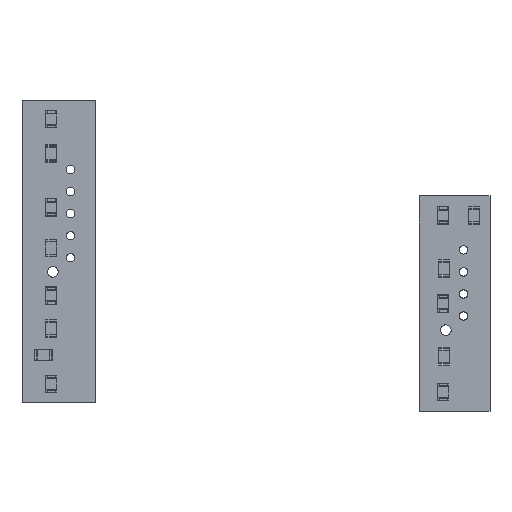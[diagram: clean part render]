
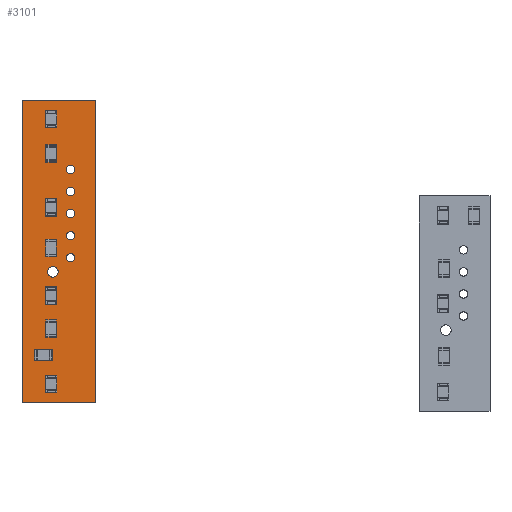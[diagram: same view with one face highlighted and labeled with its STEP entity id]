
A CAD part, top view. The second image highlights one B-rep face of the part: STEP entity #3101.
In plain terms, the highlighted planar face has unit normal (0, 0, 1).
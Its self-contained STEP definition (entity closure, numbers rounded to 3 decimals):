
#2923 = VERTEX_POINT('',#2924);
#2924 = CARTESIAN_POINT('',(-18.15,-16.625,1.51));
#2930 = EDGE_CURVE('',#2923,#2931,#2933,.T.);
#2931 = VERTEX_POINT('',#2932);
#2932 = CARTESIAN_POINT('',(-26.5,-16.625,1.51));
#2933 = LINE('',#2934,#2935);
#2934 = CARTESIAN_POINT('',(-18.15,-16.625,1.51));
#2935 = VECTOR('',#2936,1.);
#2936 = DIRECTION('',(-1.,0.,0.));
#2963 = VERTEX_POINT('',#2964);
#2964 = CARTESIAN_POINT('',(-18.15,17.6,1.51));
#2970 = EDGE_CURVE('',#2963,#2923,#2971,.T.);
#2971 = LINE('',#2972,#2973);
#2972 = CARTESIAN_POINT('',(-18.15,17.6,1.51));
#2973 = VECTOR('',#2974,1.);
#2974 = DIRECTION('',(0.,-1.,0.));
#2992 = EDGE_CURVE('',#2931,#2993,#2995,.T.);
#2993 = VERTEX_POINT('',#2994);
#2994 = CARTESIAN_POINT('',(-26.5,17.6,1.51));
#2995 = LINE('',#2996,#2997);
#2996 = CARTESIAN_POINT('',(-26.5,-16.625,1.51));
#2997 = VECTOR('',#2998,1.);
#2998 = DIRECTION('',(0.,1.,0.));
#3101 = ADVANCED_FACE('',(#3102,#3113,#3124,#3135,#3146,#3157,#3168),
  #3179,.T.);
#3102 = FACE_BOUND('',#3103,.T.);
#3103 = EDGE_LOOP('',(#3104,#3105,#3106,#3112));
#3104 = ORIENTED_EDGE('',*,*,#2930,.F.);
#3105 = ORIENTED_EDGE('',*,*,#2970,.F.);
#3106 = ORIENTED_EDGE('',*,*,#3107,.F.);
#3107 = EDGE_CURVE('',#2993,#2963,#3108,.T.);
#3108 = LINE('',#3109,#3110);
#3109 = CARTESIAN_POINT('',(-26.5,17.6,1.51));
#3110 = VECTOR('',#3111,1.);
#3111 = DIRECTION('',(1.,0.,0.));
#3112 = ORIENTED_EDGE('',*,*,#2992,.F.);
#3113 = FACE_BOUND('',#3114,.T.);
#3114 = EDGE_LOOP('',(#3115));
#3115 = ORIENTED_EDGE('',*,*,#3116,.T.);
#3116 = EDGE_CURVE('',#3117,#3117,#3119,.T.);
#3117 = VERTEX_POINT('',#3118);
#3118 = CARTESIAN_POINT('',(-23.,-2.4,1.51));
#3119 = CIRCLE('',#3120,0.6);
#3120 = AXIS2_PLACEMENT_3D('',#3121,#3122,#3123);
#3121 = CARTESIAN_POINT('',(-23.,-1.8,1.51));
#3122 = DIRECTION('',(-0.,0.,-1.));
#3123 = DIRECTION('',(-0.,-1.,0.));
#3124 = FACE_BOUND('',#3125,.T.);
#3125 = EDGE_LOOP('',(#3126));
#3126 = ORIENTED_EDGE('',*,*,#3127,.T.);
#3127 = EDGE_CURVE('',#3128,#3128,#3130,.T.);
#3128 = VERTEX_POINT('',#3129);
#3129 = CARTESIAN_POINT('',(-21.,-0.675,1.51));
#3130 = CIRCLE('',#3131,0.475);
#3131 = AXIS2_PLACEMENT_3D('',#3132,#3133,#3134);
#3132 = CARTESIAN_POINT('',(-21.,-0.2,1.51));
#3133 = DIRECTION('',(-0.,0.,-1.));
#3134 = DIRECTION('',(-0.,-1.,0.));
#3135 = FACE_BOUND('',#3136,.T.);
#3136 = EDGE_LOOP('',(#3137));
#3137 = ORIENTED_EDGE('',*,*,#3138,.T.);
#3138 = EDGE_CURVE('',#3139,#3139,#3141,.T.);
#3139 = VERTEX_POINT('',#3140);
#3140 = CARTESIAN_POINT('',(-21.,1.825,1.51));
#3141 = CIRCLE('',#3142,0.475);
#3142 = AXIS2_PLACEMENT_3D('',#3143,#3144,#3145);
#3143 = CARTESIAN_POINT('',(-21.,2.3,1.51));
#3144 = DIRECTION('',(-0.,0.,-1.));
#3145 = DIRECTION('',(-0.,-1.,0.));
#3146 = FACE_BOUND('',#3147,.T.);
#3147 = EDGE_LOOP('',(#3148));
#3148 = ORIENTED_EDGE('',*,*,#3149,.T.);
#3149 = EDGE_CURVE('',#3150,#3150,#3152,.T.);
#3150 = VERTEX_POINT('',#3151);
#3151 = CARTESIAN_POINT('',(-21.,4.325,1.51));
#3152 = CIRCLE('',#3153,0.475);
#3153 = AXIS2_PLACEMENT_3D('',#3154,#3155,#3156);
#3154 = CARTESIAN_POINT('',(-21.,4.8,1.51));
#3155 = DIRECTION('',(-0.,0.,-1.));
#3156 = DIRECTION('',(-0.,-1.,0.));
#3157 = FACE_BOUND('',#3158,.T.);
#3158 = EDGE_LOOP('',(#3159));
#3159 = ORIENTED_EDGE('',*,*,#3160,.T.);
#3160 = EDGE_CURVE('',#3161,#3161,#3163,.T.);
#3161 = VERTEX_POINT('',#3162);
#3162 = CARTESIAN_POINT('',(-21.,6.825,1.51));
#3163 = CIRCLE('',#3164,0.475);
#3164 = AXIS2_PLACEMENT_3D('',#3165,#3166,#3167);
#3165 = CARTESIAN_POINT('',(-21.,7.3,1.51));
#3166 = DIRECTION('',(-0.,0.,-1.));
#3167 = DIRECTION('',(-0.,-1.,0.));
#3168 = FACE_BOUND('',#3169,.T.);
#3169 = EDGE_LOOP('',(#3170));
#3170 = ORIENTED_EDGE('',*,*,#3171,.T.);
#3171 = EDGE_CURVE('',#3172,#3172,#3174,.T.);
#3172 = VERTEX_POINT('',#3173);
#3173 = CARTESIAN_POINT('',(-21.,9.325,1.51));
#3174 = CIRCLE('',#3175,0.475);
#3175 = AXIS2_PLACEMENT_3D('',#3176,#3177,#3178);
#3176 = CARTESIAN_POINT('',(-21.,9.8,1.51));
#3177 = DIRECTION('',(-0.,0.,-1.));
#3178 = DIRECTION('',(-0.,-1.,0.));
#3179 = PLANE('',#3180);
#3180 = AXIS2_PLACEMENT_3D('',#3181,#3182,#3183);
#3181 = CARTESIAN_POINT('',(0.,0.,1.51));
#3182 = DIRECTION('',(0.,0.,1.));
#3183 = DIRECTION('',(1.,0.,-0.));
